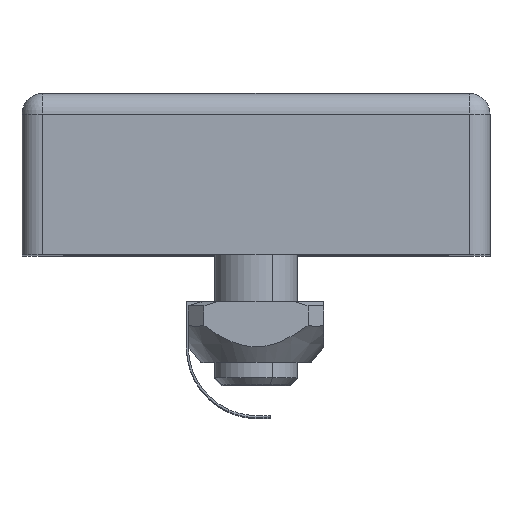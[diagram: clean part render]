
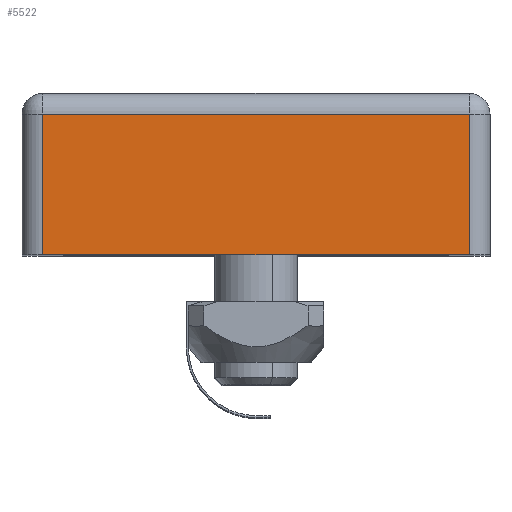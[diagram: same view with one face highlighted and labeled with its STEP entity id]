
A CAD part, top view. The second image highlights one B-rep face of the part: STEP entity #5522.
In plain terms, the highlighted planar face has unit normal (0, 0, 1).
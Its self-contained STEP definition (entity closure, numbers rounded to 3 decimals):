
#611 = EDGE_CURVE ( 'NONE', #9575, #3671, #7641, .T. ) ;
#1002 = PLANE ( 'NONE',  #4347 ) ;
#1009 = VECTOR ( 'NONE', #1234, 1000. ) ;
#1019 = VECTOR ( 'NONE', #3321, 1000. ) ;
#1234 = DIRECTION ( 'NONE',  ( -1., 0., 0. ) ) ;
#2096 = EDGE_CURVE ( 'NONE', #9575, #3297, #5602, .T. ) ;
#2140 = DIRECTION ( 'NONE',  ( 0., 0., 1. ) ) ;
#2692 = CARTESIAN_POINT ( 'NONE',  ( -19.202, 11.022, 45.999 ) ) ;
#3053 = VERTEX_POINT ( 'NONE', #2692 ) ;
#3295 = CARTESIAN_POINT ( 'NONE',  ( 21.798, -2.478, 45.999 ) ) ;
#3297 = VERTEX_POINT ( 'NONE', #4938 ) ;
#3321 = DIRECTION ( 'NONE',  ( -1., 0., 0. ) ) ;
#3348 = EDGE_LOOP ( 'NONE', ( #9511, #5389, #4833, #5882 ) ) ;
#3671 = VERTEX_POINT ( 'NONE', #8764 ) ;
#4149 = CARTESIAN_POINT ( 'NONE',  ( -21.202, 11.022, 45.999 ) ) ;
#4347 = AXIS2_PLACEMENT_3D ( 'NONE', #8922, #2140, #9529 ) ;
#4595 = EDGE_CURVE ( 'NONE', #3053, #3297, #8661, .T. ) ;
#4833 = ORIENTED_EDGE ( 'NONE', *, *, #7442, .T. ) ;
#4938 = CARTESIAN_POINT ( 'NONE',  ( -19.202, -2.478, 45.999 ) ) ;
#5328 = DIRECTION ( 'NONE',  ( 0., 1., 0. ) ) ;
#5389 = ORIENTED_EDGE ( 'NONE', *, *, #611, .T. ) ;
#5522 = ADVANCED_FACE ( 'NONE', ( #8694 ), #1002, .T. ) ;
#5525 = DIRECTION ( 'NONE',  ( 0., -1., 0. ) ) ;
#5602 = LINE ( 'NONE', #5705, #1019 ) ;
#5705 = CARTESIAN_POINT ( 'NONE',  ( 23.798, -2.478, 45.999 ) ) ;
#5820 = VECTOR ( 'NONE', #5525, 1000. ) ;
#5882 = ORIENTED_EDGE ( 'NONE', *, *, #4595, .T. ) ;
#6965 = CARTESIAN_POINT ( 'NONE',  ( 21.798, 13.022, 45.999 ) ) ;
#7442 = EDGE_CURVE ( 'NONE', #3671, #3053, #8741, .T. ) ;
#7641 = LINE ( 'NONE', #6965, #8239 ) ;
#8239 = VECTOR ( 'NONE', #5328, 1000. ) ;
#8661 = LINE ( 'NONE', #9305, #5820 ) ;
#8694 = FACE_OUTER_BOUND ( 'NONE', #3348, .T. ) ;
#8741 = LINE ( 'NONE', #4149, #1009 ) ;
#8764 = CARTESIAN_POINT ( 'NONE',  ( 21.798, 11.022, 45.999 ) ) ;
#8922 = CARTESIAN_POINT ( 'NONE',  ( 23.798, 13.022, 45.999 ) ) ;
#9305 = CARTESIAN_POINT ( 'NONE',  ( -19.202, 13.022, 45.999 ) ) ;
#9511 = ORIENTED_EDGE ( 'NONE', *, *, #2096, .F. ) ;
#9529 = DIRECTION ( 'NONE',  ( 1., 0., 0. ) ) ;
#9575 = VERTEX_POINT ( 'NONE', #3295 ) ;
